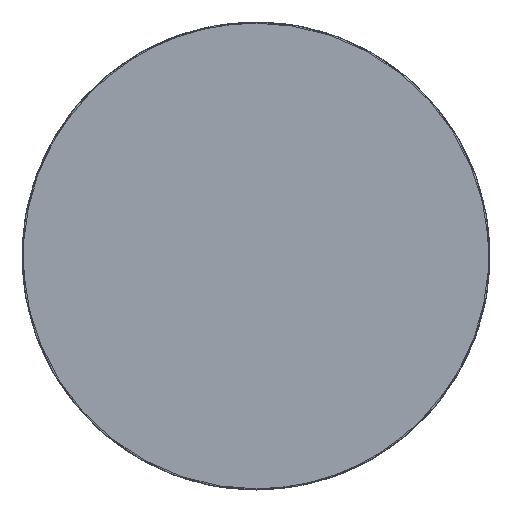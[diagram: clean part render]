
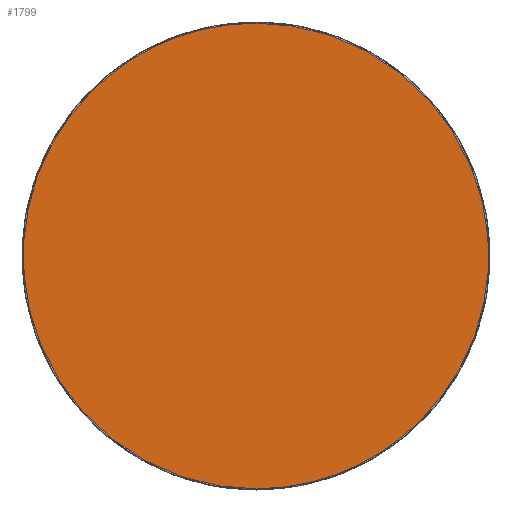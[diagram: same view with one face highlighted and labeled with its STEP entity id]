
A CAD part, front view. The second image highlights one B-rep face of the part: STEP entity #1799.
In plain terms, the highlighted planar face has unit normal (0, -1, 0).
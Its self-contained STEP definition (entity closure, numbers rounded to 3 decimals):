
#128 = CARTESIAN_POINT ( 'NONE',  ( 0., -166.729, 149.199 ) ) ;
#192 =( BOUNDED_CURVE ( )  B_SPLINE_CURVE ( 3, ( #1199, #1593, #1930, #3920 ),
 .UNSPECIFIED., .F., .T. ) 
 B_SPLINE_CURVE_WITH_KNOTS ( ( 4, 4 ),
 ( 0., 0.001 ),
 .UNSPECIFIED. ) 
 CURVE ( )  GEOMETRIC_REPRESENTATION_ITEM ( )  RATIONAL_B_SPLINE_CURVE ( ( 1., 1., 1., 1. ) ) 
 REPRESENTATION_ITEM ( '' )  );
#363 = DIRECTION ( 'NONE',  ( 0., -1., 0. ) ) ;
#506 = CARTESIAN_POINT ( 'NONE',  ( 0., -166.729, -149.199 ) ) ;
#619 = CARTESIAN_POINT ( 'NONE',  ( -0.437, -166.729, -149.198 ) ) ;
#632 = AXIS2_PLACEMENT_3D ( 'NONE', #3671, #363, #3371 ) ;
#1199 = CARTESIAN_POINT ( 'NONE',  ( 0., -166.729, 149.199 ) ) ;
#1296 = CARTESIAN_POINT ( 'NONE',  ( -0.218, -166.729, -149.199 ) ) ;
#1357 = EDGE_CURVE ( 'NONE', #4073, #2486, #2699, .T. ) ;
#1360 = CARTESIAN_POINT ( 'NONE',  ( -0.655, -166.729, -149.197 ) ) ;
#1435 = EDGE_CURVE ( 'NONE', #2486, #4227, #192, .T. ) ;
#1583 = ORIENTED_EDGE ( 'NONE', *, *, #3221, .F. ) ;
#1593 = CARTESIAN_POINT ( 'NONE',  ( 0.218, -166.729, 149.199 ) ) ;
#1607 =( BOUNDED_CURVE ( )  B_SPLINE_CURVE ( 3, ( #2556, #3561, #1871, #506 ),
 .UNSPECIFIED., .F., .T. ) 
 B_SPLINE_CURVE_WITH_KNOTS ( ( 4, 4 ),
 ( 0.001, 1. ),
 .UNSPECIFIED. ) 
 CURVE ( )  GEOMETRIC_REPRESENTATION_ITEM ( )  RATIONAL_B_SPLINE_CURVE ( ( 1., 0.335, 0.335, 1. ) ) 
 REPRESENTATION_ITEM ( '' )  );
#1792 = EDGE_LOOP ( 'NONE', ( #2603, #1583, #3543, #3334 ) ) ;
#1799 = ADVANCED_FACE ( 'NONE', ( #4209 ), #3053, .T. ) ;
#1871 = CARTESIAN_POINT ( 'NONE',  ( 297.093, -166.729, -149.199 ) ) ;
#1930 = CARTESIAN_POINT ( 'NONE',  ( 0.437, -166.729, 149.198 ) ) ;
#2103 = VERTEX_POINT ( 'NONE', #3294 ) ;
#2324 =( BOUNDED_CURVE ( )  B_SPLINE_CURVE ( 3, ( #2655, #1296, #619, #2339 ),
 .UNSPECIFIED., .F., .F. ) 
 B_SPLINE_CURVE_WITH_KNOTS ( ( 4, 4 ),
 ( 0., 0.001 ),
 .UNSPECIFIED. ) 
 CURVE ( )  GEOMETRIC_REPRESENTATION_ITEM ( )  RATIONAL_B_SPLINE_CURVE ( ( 1., 1., 1., 1. ) ) 
 REPRESENTATION_ITEM ( '' )  );
#2339 = CARTESIAN_POINT ( 'NONE',  ( -0.655, -166.729, -149.197 ) ) ;
#2486 = VERTEX_POINT ( 'NONE', #3389 ) ;
#2556 = CARTESIAN_POINT ( 'NONE',  ( 0.655, -166.729, 149.197 ) ) ;
#2603 = ORIENTED_EDGE ( 'NONE', *, *, #3792, .F. ) ;
#2655 = CARTESIAN_POINT ( 'NONE',  ( 0., -166.729, -149.199 ) ) ;
#2699 =( BOUNDED_CURVE ( )  B_SPLINE_CURVE ( 3, ( #4319, #3143, #3676, #128 ),
 .UNSPECIFIED., .F., .T. ) 
 B_SPLINE_CURVE_WITH_KNOTS ( ( 4, 4 ),
 ( 0.001, 1. ),
 .UNSPECIFIED. ) 
 CURVE ( )  GEOMETRIC_REPRESENTATION_ITEM ( )  RATIONAL_B_SPLINE_CURVE ( ( 1., 0.335, 0.335, 1. ) ) 
 REPRESENTATION_ITEM ( '' )  );
#3053 = PLANE ( 'NONE',  #632 ) ;
#3143 = CARTESIAN_POINT ( 'NONE',  ( -297.745, -166.729, -147.893 ) ) ;
#3156 = CARTESIAN_POINT ( 'NONE',  ( 0.655, -166.729, 149.197 ) ) ;
#3221 = EDGE_CURVE ( 'NONE', #4227, #2103, #1607, .T. ) ;
#3294 = CARTESIAN_POINT ( 'NONE',  ( 0., -166.729, -149.199 ) ) ;
#3334 = ORIENTED_EDGE ( 'NONE', *, *, #1357, .F. ) ;
#3371 = DIRECTION ( 'NONE',  ( 0., 0., 1. ) ) ;
#3389 = CARTESIAN_POINT ( 'NONE',  ( 0., -166.729, 149.199 ) ) ;
#3543 = ORIENTED_EDGE ( 'NONE', *, *, #1435, .F. ) ;
#3561 = CARTESIAN_POINT ( 'NONE',  ( 297.745, -166.729, 147.893 ) ) ;
#3671 = CARTESIAN_POINT ( 'NONE',  ( 0., -166.729, 0. ) ) ;
#3676 = CARTESIAN_POINT ( 'NONE',  ( -297.093, -166.729, 149.199 ) ) ;
#3792 = EDGE_CURVE ( 'NONE', #2103, #4073, #2324, .T. ) ;
#3920 = CARTESIAN_POINT ( 'NONE',  ( 0.655, -166.729, 149.197 ) ) ;
#4073 = VERTEX_POINT ( 'NONE', #1360 ) ;
#4209 = FACE_OUTER_BOUND ( 'NONE', #1792, .T. ) ;
#4227 = VERTEX_POINT ( 'NONE', #3156 ) ;
#4319 = CARTESIAN_POINT ( 'NONE',  ( -0.655, -166.729, -149.197 ) ) ;
